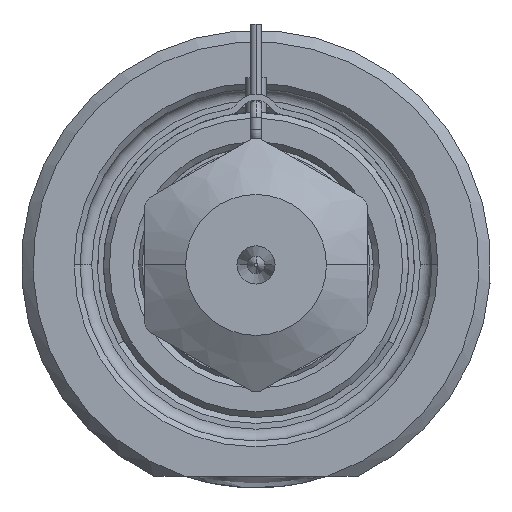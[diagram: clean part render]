
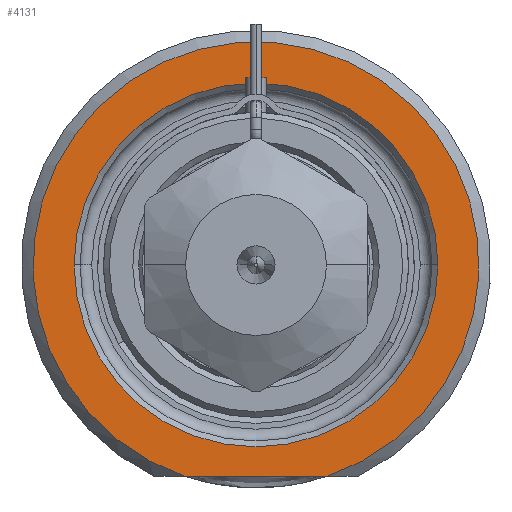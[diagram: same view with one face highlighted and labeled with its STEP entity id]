
A CAD part, front view. The second image highlights one B-rep face of the part: STEP entity #4131.
In plain terms, the highlighted planar face has unit normal (0, -1, 0).
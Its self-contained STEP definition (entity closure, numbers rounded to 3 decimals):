
#1=DIRECTION('',(1.,0.,0.));
#2=VECTOR('',#1,12.166);
#3=CARTESIAN_POINT('',(-6.083,0.,-18.));
#4=LINE('',#3,#2);
#5=CARTESIAN_POINT('',(0.,0.,0.));
#6=DIRECTION('',(0.,1.,0.));
#7=DIRECTION('',(-1.,0.,0.));
#8=AXIS2_PLACEMENT_3D('',#5,#6,#7);
#10=CARTESIAN_POINT('',(0.,0.,0.));
#11=DIRECTION('',(0.,1.,0.));
#12=DIRECTION('',(1.,0.,0.));
#13=AXIS2_PLACEMENT_3D('',#10,#11,#12);
#264=CARTESIAN_POINT('',(0.,0.,0.));
#265=DIRECTION('',(0.,-1.,0.));
#266=DIRECTION('',(0.32,0.,-0.947));
#267=AXIS2_PLACEMENT_3D('',#264,#265,#266);
#3484=CARTESIAN_POINT('',(-15.5,0.,0.));
#3485=CARTESIAN_POINT('',(15.5,0.,0.));
#3486=VERTEX_POINT('',#3484);
#3487=VERTEX_POINT('',#3485);
#3528=CARTESIAN_POINT('',(-6.083,0.,-18.));
#3529=CARTESIAN_POINT('',(6.083,0.,-18.));
#3530=VERTEX_POINT('',#3528);
#3531=VERTEX_POINT('',#3529);
#4114=CARTESIAN_POINT('',(0.,0.,0.));
#4115=DIRECTION('',(0.,-1.,0.));
#4116=DIRECTION('',(1.,0.,0.));
#4117=AXIS2_PLACEMENT_3D('',#4114,#4115,#4116);
#4118=PLANE('',#4117);
#4120=ORIENTED_EDGE('',*,*,#4119,.F.);
#4122=ORIENTED_EDGE('',*,*,#4121,.F.);
#4123=EDGE_LOOP('',(#4120,#4122));
#4124=FACE_OUTER_BOUND('',#4123,.F.);
#4126=ORIENTED_EDGE('',*,*,#4125,.F.);
#4128=ORIENTED_EDGE('',*,*,#4127,.F.);
#4129=EDGE_LOOP('',(#4126,#4128));
#4130=FACE_BOUND('',#4129,.F.);
#4131=ADVANCED_FACE('',(#4124,#4130),#4118,.T.);
#9=CIRCLE('',#8,15.5);
#14=CIRCLE('',#13,15.5);
#268=CIRCLE('',#267,19.);
#4119=EDGE_CURVE('',#3530,#3531,#4,.T.);
#4121=EDGE_CURVE('',#3531,#3530,#268,.T.);
#4125=EDGE_CURVE('',#3486,#3487,#9,.T.);
#4127=EDGE_CURVE('',#3487,#3486,#14,.T.);
